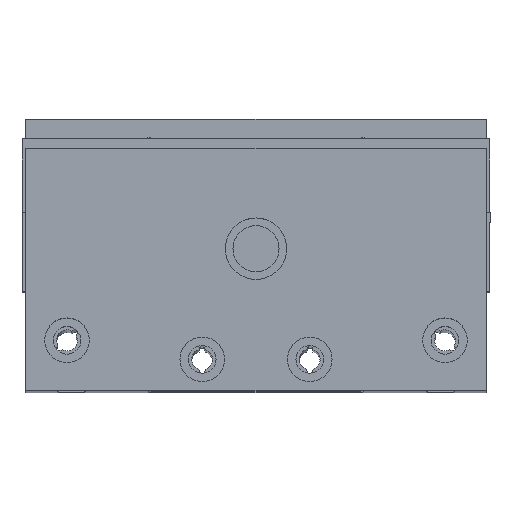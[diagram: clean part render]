
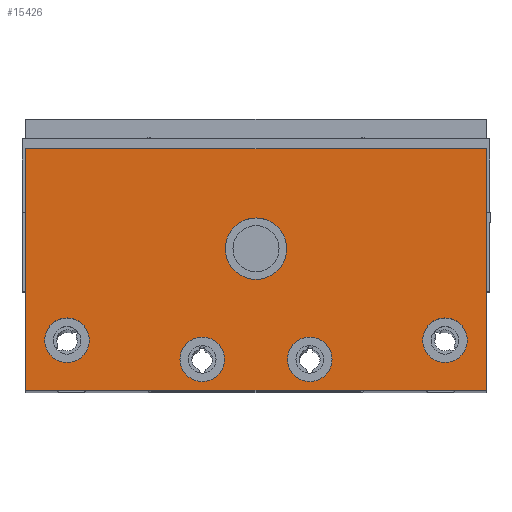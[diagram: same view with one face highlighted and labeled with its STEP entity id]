
A CAD part, top view. The second image highlights one B-rep face of the part: STEP entity #15426.
In plain terms, the highlighted planar face has unit normal (0, 0, 1).
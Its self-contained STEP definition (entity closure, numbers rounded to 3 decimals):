
#230 = DIRECTION ( 'NONE',  ( 0., 0., 1. ) ) ;
#360 = AXIS2_PLACEMENT_3D ( 'NONE', #18497, #23402, #22802 ) ;
#589 = CARTESIAN_POINT ( 'NONE',  ( 0., 26., -25.789 ) ) ;
#682 = FACE_BOUND ( 'NONE', #18507, .T. ) ;
#1078 = CIRCLE ( 'NONE', #18311, 7.25 ) ;
#1159 = EDGE_LOOP ( 'NONE', ( #12839, #28495 ) ) ;
#1480 = DIRECTION ( 'NONE',  ( 1., 0., 0. ) ) ;
#1589 = CARTESIAN_POINT ( 'NONE',  ( -10., 26., -25.789 ) ) ;
#1703 = VECTOR ( 'NONE', #9527, 1000. ) ;
#2268 = CARTESIAN_POINT ( 'NONE',  ( 17.5, -10., -25.789 ) ) ;
#2379 = DIRECTION ( 'NONE',  ( 1., 0., 0. ) ) ;
#2565 = EDGE_CURVE ( 'NONE', #16419, #5865, #11927, .T. ) ;
#2623 = EDGE_CURVE ( 'NONE', #14944, #20527, #18810, .T. ) ;
#2905 = DIRECTION ( 'NONE',  ( 1., 0., 0. ) ) ;
#2937 = EDGE_LOOP ( 'NONE', ( #25572, #25199 ) ) ;
#3033 = LINE ( 'NONE', #5331, #20250 ) ;
#3077 = VECTOR ( 'NONE', #12829, 1000. ) ;
#3188 = EDGE_LOOP ( 'NONE', ( #14327, #6174 ) ) ;
#3433 = CARTESIAN_POINT ( 'NONE',  ( 61.5, -3.8, -25.789 ) ) ;
#3525 = EDGE_CURVE ( 'NONE', #25749, #14341, #7261, .T. ) ;
#3764 = ORIENTED_EDGE ( 'NONE', *, *, #4888, .F. ) ;
#4180 = CARTESIAN_POINT ( 'NONE',  ( 75., 58.5, -25.789 ) ) ;
#4530 = DIRECTION ( 'NONE',  ( 0., 0., 1. ) ) ;
#4592 = CARTESIAN_POINT ( 'NONE',  ( 68.75, -3.8, -25.789 ) ) ;
#4689 = CARTESIAN_POINT ( 'NONE',  ( -17.5, -10., -25.789 ) ) ;
#4883 = CARTESIAN_POINT ( 'NONE',  ( -24.75, -10., -25.789 ) ) ;
#4888 = EDGE_CURVE ( 'NONE', #21228, #26260, #25805, .T. ) ;
#4974 = CARTESIAN_POINT ( 'NONE',  ( -75., -20., -25.789 ) ) ;
#5064 = DIRECTION ( 'NONE',  ( 0., 0., 1. ) ) ;
#5283 = DIRECTION ( 'NONE',  ( 0., 0., 1. ) ) ;
#5293 = DIRECTION ( 'NONE',  ( 1., 0., 0. ) ) ;
#5331 = CARTESIAN_POINT ( 'NONE',  ( -87.725, -20., -25.789 ) ) ;
#5559 = DIRECTION ( 'NONE',  ( 0., 0., 1. ) ) ;
#5581 = DIRECTION ( 'NONE',  ( 1., 0., 0. ) ) ;
#5865 = VERTEX_POINT ( 'NONE', #4883 ) ;
#6123 = AXIS2_PLACEMENT_3D ( 'NONE', #10231, #24090, #5293 ) ;
#6174 = ORIENTED_EDGE ( 'NONE', *, *, #18706, .F. ) ;
#6226 = AXIS2_PLACEMENT_3D ( 'NONE', #19758, #10360, #8496 ) ;
#6409 = CARTESIAN_POINT ( 'NONE',  ( 10.25, -10., -25.789 ) ) ;
#7261 = CIRCLE ( 'NONE', #8763, 10. ) ;
#7370 = LINE ( 'NONE', #16650, #1703 ) ;
#7836 = CARTESIAN_POINT ( 'NONE',  ( -17.5, -10., -25.789 ) ) ;
#8496 = DIRECTION ( 'NONE',  ( 1., 0., 0. ) ) ;
#8643 = CARTESIAN_POINT ( 'NONE',  ( -54.25, -3.8, -25.789 ) ) ;
#8763 = AXIS2_PLACEMENT_3D ( 'NONE', #589, #14788, #26594 ) ;
#9360 = DIRECTION ( 'NONE',  ( 1., 0., 0. ) ) ;
#9527 = DIRECTION ( 'NONE',  ( 0., -1., 0. ) ) ;
#9930 = FACE_BOUND ( 'NONE', #3188, .T. ) ;
#10231 = CARTESIAN_POINT ( 'NONE',  ( -87.725, -24.325, -25.789 ) ) ;
#10314 = CIRCLE ( 'NONE', #29963, 7.25 ) ;
#10360 = DIRECTION ( 'NONE',  ( 0., 0., 1. ) ) ;
#11557 = CARTESIAN_POINT ( 'NONE',  ( 54.25, -3.8, -25.789 ) ) ;
#11927 = CIRCLE ( 'NONE', #28648, 7.25 ) ;
#12092 = CARTESIAN_POINT ( 'NONE',  ( 61.5, -3.8, -25.789 ) ) ;
#12132 = EDGE_LOOP ( 'NONE', ( #28771, #29289 ) ) ;
#12512 = CIRCLE ( 'NONE', #21374, 7.25 ) ;
#12829 = DIRECTION ( 'NONE',  ( 0., 1., 0. ) ) ;
#12839 = ORIENTED_EDGE ( 'NONE', *, *, #2565, .F. ) ;
#13165 = VERTEX_POINT ( 'NONE', #17327 ) ;
#13648 = CIRCLE ( 'NONE', #360, 7.25 ) ;
#14087 = CIRCLE ( 'NONE', #16051, 7.25 ) ;
#14110 = CARTESIAN_POINT ( 'NONE',  ( -61.5, -3.8, -25.789 ) ) ;
#14322 = DIRECTION ( 'NONE',  ( 0., 0., 1. ) ) ;
#14327 = ORIENTED_EDGE ( 'NONE', *, *, #3525, .F. ) ;
#14341 = VERTEX_POINT ( 'NONE', #29297 ) ;
#14769 = DIRECTION ( 'NONE',  ( -1., 0., 0. ) ) ;
#14788 = DIRECTION ( 'NONE',  ( 0., 0., 1. ) ) ;
#14879 = FACE_OUTER_BOUND ( 'NONE', #16473, .T. ) ;
#14944 = VERTEX_POINT ( 'NONE', #4592 ) ;
#15027 = ORIENTED_EDGE ( 'NONE', *, *, #20479, .F. ) ;
#15043 = VERTEX_POINT ( 'NONE', #29191 ) ;
#15180 = FACE_BOUND ( 'NONE', #12132, .T. ) ;
#15426 = ADVANCED_FACE ( 'NONE', ( #26686, #15180, #19332, #682, #9930, #14879 ), #24393, .T. ) ;
#15509 = VERTEX_POINT ( 'NONE', #4180 ) ;
#15829 = DIRECTION ( 'NONE',  ( 1., 0., 0. ) ) ;
#15840 = ORIENTED_EDGE ( 'NONE', *, *, #18880, .F. ) ;
#16051 = AXIS2_PLACEMENT_3D ( 'NONE', #2268, #14322, #9360 ) ;
#16419 = VERTEX_POINT ( 'NONE', #30133 ) ;
#16473 = EDGE_LOOP ( 'NONE', ( #17096, #15027, #16984, #23692 ) ) ;
#16650 = CARTESIAN_POINT ( 'NONE',  ( 75., -24.325, -25.789 ) ) ;
#16984 = ORIENTED_EDGE ( 'NONE', *, *, #26090, .F. ) ;
#17096 = ORIENTED_EDGE ( 'NONE', *, *, #28948, .F. ) ;
#17247 = CARTESIAN_POINT ( 'NONE',  ( -68.75, -3.8, -25.789 ) ) ;
#17327 = CARTESIAN_POINT ( 'NONE',  ( 24.75, -10., -25.789 ) ) ;
#17449 = DIRECTION ( 'NONE',  ( 1., 0., 0. ) ) ;
#17452 = LINE ( 'NONE', #19456, #3077 ) ;
#17641 = EDGE_CURVE ( 'NONE', #22597, #13165, #14087, .T. ) ;
#18311 = AXIS2_PLACEMENT_3D ( 'NONE', #30104, #27779, #1480 ) ;
#18497 = CARTESIAN_POINT ( 'NONE',  ( -61.5, -3.8, -25.789 ) ) ;
#18507 = EDGE_LOOP ( 'NONE', ( #15840, #3764 ) ) ;
#18706 = EDGE_CURVE ( 'NONE', #14341, #25749, #20523, .T. ) ;
#18810 = CIRCLE ( 'NONE', #22735, 7.25 ) ;
#18880 = EDGE_CURVE ( 'NONE', #26260, #21228, #13648, .T. ) ;
#18898 = CARTESIAN_POINT ( 'NONE',  ( 75., -20., -25.789 ) ) ;
#19332 = FACE_BOUND ( 'NONE', #1159, .T. ) ;
#19456 = CARTESIAN_POINT ( 'NONE',  ( -75., -24.325, -25.789 ) ) ;
#19758 = CARTESIAN_POINT ( 'NONE',  ( 0., 26., -25.789 ) ) ;
#20250 = VECTOR ( 'NONE', #14769, 1000. ) ;
#20479 = EDGE_CURVE ( 'NONE', #15043, #15509, #23261, .T. ) ;
#20523 = CIRCLE ( 'NONE', #6226, 10. ) ;
#20527 = VERTEX_POINT ( 'NONE', #11557 ) ;
#21116 = DIRECTION ( 'NONE',  ( 1., 0., 0. ) ) ;
#21228 = VERTEX_POINT ( 'NONE', #17247 ) ;
#21374 = AXIS2_PLACEMENT_3D ( 'NONE', #3433, #5283, #5581 ) ;
#22345 = EDGE_CURVE ( 'NONE', #5865, #16419, #10314, .T. ) ;
#22597 = VERTEX_POINT ( 'NONE', #6409 ) ;
#22735 = AXIS2_PLACEMENT_3D ( 'NONE', #12092, #5559, #17449 ) ;
#22802 = DIRECTION ( 'NONE',  ( 1., 0., 0. ) ) ;
#23261 = LINE ( 'NONE', #28174, #23981 ) ;
#23402 = DIRECTION ( 'NONE',  ( 0., 0., 1. ) ) ;
#23692 = ORIENTED_EDGE ( 'NONE', *, *, #24022, .F. ) ;
#23981 = VECTOR ( 'NONE', #21116, 1000. ) ;
#24022 = EDGE_CURVE ( 'NONE', #29442, #27237, #3033, .T. ) ;
#24090 = DIRECTION ( 'NONE',  ( 0., 0., 1. ) ) ;
#24393 = PLANE ( 'NONE',  #6123 ) ;
#25199 = ORIENTED_EDGE ( 'NONE', *, *, #28716, .F. ) ;
#25365 = EDGE_CURVE ( 'NONE', #13165, #22597, #1078, .T. ) ;
#25572 = ORIENTED_EDGE ( 'NONE', *, *, #2623, .F. ) ;
#25749 = VERTEX_POINT ( 'NONE', #1589 ) ;
#25805 = CIRCLE ( 'NONE', #29748, 7.25 ) ;
#26090 = EDGE_CURVE ( 'NONE', #27237, #15043, #17452, .T. ) ;
#26260 = VERTEX_POINT ( 'NONE', #8643 ) ;
#26594 = DIRECTION ( 'NONE',  ( 1., 0., 0. ) ) ;
#26686 = FACE_BOUND ( 'NONE', #2937, .T. ) ;
#27237 = VERTEX_POINT ( 'NONE', #4974 ) ;
#27779 = DIRECTION ( 'NONE',  ( 0., 0., 1. ) ) ;
#28174 = CARTESIAN_POINT ( 'NONE',  ( 76., 58.5, -25.789 ) ) ;
#28495 = ORIENTED_EDGE ( 'NONE', *, *, #22345, .F. ) ;
#28648 = AXIS2_PLACEMENT_3D ( 'NONE', #4689, #4530, #15829 ) ;
#28716 = EDGE_CURVE ( 'NONE', #20527, #14944, #12512, .T. ) ;
#28771 = ORIENTED_EDGE ( 'NONE', *, *, #25365, .F. ) ;
#28948 = EDGE_CURVE ( 'NONE', #15509, #29442, #7370, .T. ) ;
#29191 = CARTESIAN_POINT ( 'NONE',  ( -75., 58.5, -25.789 ) ) ;
#29289 = ORIENTED_EDGE ( 'NONE', *, *, #17641, .F. ) ;
#29297 = CARTESIAN_POINT ( 'NONE',  ( 10., 26., -25.789 ) ) ;
#29442 = VERTEX_POINT ( 'NONE', #18898 ) ;
#29748 = AXIS2_PLACEMENT_3D ( 'NONE', #14110, #230, #2379 ) ;
#29963 = AXIS2_PLACEMENT_3D ( 'NONE', #7836, #5064, #2905 ) ;
#30104 = CARTESIAN_POINT ( 'NONE',  ( 17.5, -10., -25.789 ) ) ;
#30133 = CARTESIAN_POINT ( 'NONE',  ( -10.25, -10., -25.789 ) ) ;
